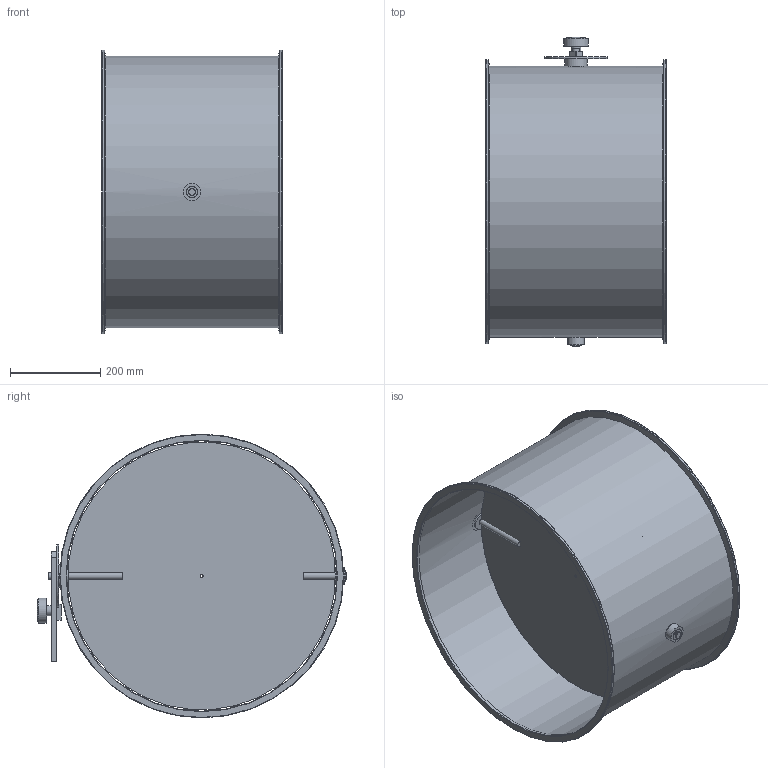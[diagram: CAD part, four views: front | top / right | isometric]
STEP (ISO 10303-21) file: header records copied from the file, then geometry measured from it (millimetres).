
FILE_DESCRIPTION(/* description */ (''),/* implementation_level */ '2;1');
FILE_NAME(/* name */ 'METU_Drosselklappe_Flansch_verzinkt_EA112-80B__600_L400_handbetaetigt.stp',/* time_stamp */ '2022-04-22T14:01:58+02:00',/* author */ (''),/* organization */ (''),/* preprocessor_version */ 'ST-DEVELOPER v11',/* originating_system */ 'SIEMENS UGS NX 6.0',/* authorisation */ '');
FILE_SCHEMA (('CONFIG_CONTROL_DESIGN'));
Length unit declared in the file: millimetre
Products named in the file (1): d.ga332Aq8ul
Bounding box: 400 x 687.34 x 630 mm (x, y, z)
Volume: 1776256 mm3; surface area: 2266711.2 mm2
Topology: 12 solids, 12 shells, 88 faces, 180 edges, 122 vertices
Faces by surface type: plane 41, cylinder 37, torus 6, sphere 2, cone 2
Full cylindrical faces by diameter (mm): 6 x7, 8.5 x1, 10 x1, 11 x1, 15 x5, 22 x1, 25 x3, 25.85 x2, 26 x2, 38 x3, 48 x1, 49 x1, 55 x1, 140 x1, 600 x1, 602 x1, 630 x2
Entity records: 2200 total; most frequent: CARTESIAN_POINT 387, DIRECTION 374, ORIENTED_EDGE 246, EDGE_LOOP 172, AXIS2_PLACEMENT_3D 166, FACE_BOUND 150, EDGE_CURVE 123, VERTEX_POINT 107
